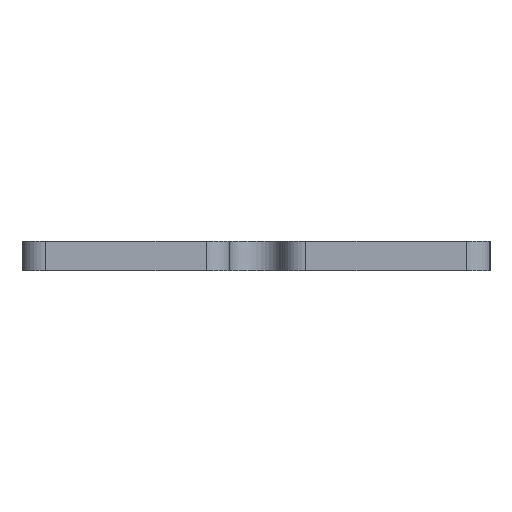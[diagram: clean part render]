
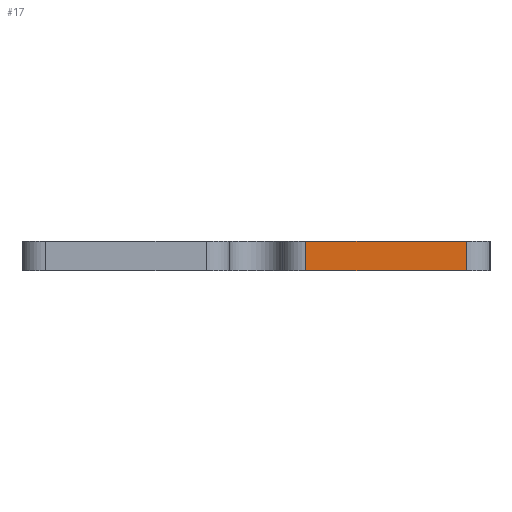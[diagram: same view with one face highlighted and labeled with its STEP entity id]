
A CAD part, left-side view. The second image highlights one B-rep face of the part: STEP entity #17.
In plain terms, the highlighted planar face has unit normal (-1, 0, 0).
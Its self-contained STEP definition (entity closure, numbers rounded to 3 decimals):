
#17 = ADVANCED_FACE('',(#18),#32,.T.);
#18 = FACE_BOUND('',#19,.T.);
#19 = EDGE_LOOP('',(#20,#55,#83,#111));
#20 = ORIENTED_EDGE('',*,*,#21,.F.);
#21 = EDGE_CURVE('',#22,#24,#26,.T.);
#22 = VERTEX_POINT('',#23);
#23 = CARTESIAN_POINT('',(-125.,2.,0.));
#24 = VERTEX_POINT('',#25);
#25 = CARTESIAN_POINT('',(-125.,15.75,0.));
#26 = SURFACE_CURVE('',#27,(#31,#43),.PCURVE_S1.);
#27 = LINE('',#28,#29);
#28 = CARTESIAN_POINT('',(-125.,2.,0.));
#29 = VECTOR('',#30,1.);
#30 = DIRECTION('',(0.,1.,0.));
#31 = PCURVE('',#32,#37);
#32 = PLANE('',#33);
#33 = AXIS2_PLACEMENT_3D('',#34,#35,#36);
#34 = CARTESIAN_POINT('',(-125.,2.,0.));
#35 = DIRECTION('',(-1.,0.,0.));
#36 = DIRECTION('',(0.,1.,0.));
#37 = DEFINITIONAL_REPRESENTATION('',(#38),#42);
#38 = LINE('',#39,#40);
#39 = CARTESIAN_POINT('',(0.,0.));
#40 = VECTOR('',#41,1.);
#41 = DIRECTION('',(1.,0.));
#42 = ( GEOMETRIC_REPRESENTATION_CONTEXT(2) 
PARAMETRIC_REPRESENTATION_CONTEXT() REPRESENTATION_CONTEXT('2D SPACE',''
  ) );
#43 = PCURVE('',#44,#49);
#44 = PLANE('',#45);
#45 = AXIS2_PLACEMENT_3D('',#46,#47,#48);
#46 = CARTESIAN_POINT('',(0.,20.,0.));
#47 = DIRECTION('',(0.,0.,1.));
#48 = DIRECTION('',(1.,0.,0.));
#49 = DEFINITIONAL_REPRESENTATION('',(#50),#54);
#50 = LINE('',#51,#52);
#51 = CARTESIAN_POINT('',(-125.,-18.));
#52 = VECTOR('',#53,1.);
#53 = DIRECTION('',(0.,1.));
#54 = ( GEOMETRIC_REPRESENTATION_CONTEXT(2) 
PARAMETRIC_REPRESENTATION_CONTEXT() REPRESENTATION_CONTEXT('2D SPACE',''
  ) );
#55 = ORIENTED_EDGE('',*,*,#56,.T.);
#56 = EDGE_CURVE('',#22,#57,#59,.T.);
#57 = VERTEX_POINT('',#58);
#58 = CARTESIAN_POINT('',(-125.,2.,2.5));
#59 = SURFACE_CURVE('',#60,(#64,#71),.PCURVE_S1.);
#60 = LINE('',#61,#62);
#61 = CARTESIAN_POINT('',(-125.,2.,0.));
#62 = VECTOR('',#63,1.);
#63 = DIRECTION('',(0.,0.,1.));
#64 = PCURVE('',#32,#65);
#65 = DEFINITIONAL_REPRESENTATION('',(#66),#70);
#66 = LINE('',#67,#68);
#67 = CARTESIAN_POINT('',(0.,0.));
#68 = VECTOR('',#69,1.);
#69 = DIRECTION('',(0.,-1.));
#70 = ( GEOMETRIC_REPRESENTATION_CONTEXT(2) 
PARAMETRIC_REPRESENTATION_CONTEXT() REPRESENTATION_CONTEXT('2D SPACE',''
  ) );
#71 = PCURVE('',#72,#77);
#72 = CYLINDRICAL_SURFACE('',#73,2.);
#73 = AXIS2_PLACEMENT_3D('',#74,#75,#76);
#74 = CARTESIAN_POINT('',(-123.,2.,0.));
#75 = DIRECTION('',(-0.,-0.,-1.));
#76 = DIRECTION('',(1.,0.,0.));
#77 = DEFINITIONAL_REPRESENTATION('',(#78),#82);
#78 = LINE('',#79,#80);
#79 = CARTESIAN_POINT('',(-3.142,0.));
#80 = VECTOR('',#81,1.);
#81 = DIRECTION('',(-0.,-1.));
#82 = ( GEOMETRIC_REPRESENTATION_CONTEXT(2) 
PARAMETRIC_REPRESENTATION_CONTEXT() REPRESENTATION_CONTEXT('2D SPACE',''
  ) );
#83 = ORIENTED_EDGE('',*,*,#84,.T.);
#84 = EDGE_CURVE('',#57,#85,#87,.T.);
#85 = VERTEX_POINT('',#86);
#86 = CARTESIAN_POINT('',(-125.,15.75,2.5));
#87 = SURFACE_CURVE('',#88,(#92,#99),.PCURVE_S1.);
#88 = LINE('',#89,#90);
#89 = CARTESIAN_POINT('',(-125.,2.,2.5));
#90 = VECTOR('',#91,1.);
#91 = DIRECTION('',(0.,1.,0.));
#92 = PCURVE('',#32,#93);
#93 = DEFINITIONAL_REPRESENTATION('',(#94),#98);
#94 = LINE('',#95,#96);
#95 = CARTESIAN_POINT('',(0.,-2.5));
#96 = VECTOR('',#97,1.);
#97 = DIRECTION('',(1.,0.));
#98 = ( GEOMETRIC_REPRESENTATION_CONTEXT(2) 
PARAMETRIC_REPRESENTATION_CONTEXT() REPRESENTATION_CONTEXT('2D SPACE',''
  ) );
#99 = PCURVE('',#100,#105);
#100 = PLANE('',#101);
#101 = AXIS2_PLACEMENT_3D('',#102,#103,#104);
#102 = CARTESIAN_POINT('',(0.,20.,2.5));
#103 = DIRECTION('',(0.,0.,1.));
#104 = DIRECTION('',(1.,0.,0.));
#105 = DEFINITIONAL_REPRESENTATION('',(#106),#110);
#106 = LINE('',#107,#108);
#107 = CARTESIAN_POINT('',(-125.,-18.));
#108 = VECTOR('',#109,1.);
#109 = DIRECTION('',(0.,1.));
#110 = ( GEOMETRIC_REPRESENTATION_CONTEXT(2) 
PARAMETRIC_REPRESENTATION_CONTEXT() REPRESENTATION_CONTEXT('2D SPACE',''
  ) );
#111 = ORIENTED_EDGE('',*,*,#112,.F.);
#112 = EDGE_CURVE('',#24,#85,#113,.T.);
#113 = SURFACE_CURVE('',#114,(#118,#125),.PCURVE_S1.);
#114 = LINE('',#115,#116);
#115 = CARTESIAN_POINT('',(-125.,15.75,0.));
#116 = VECTOR('',#117,1.);
#117 = DIRECTION('',(0.,0.,1.));
#118 = PCURVE('',#32,#119);
#119 = DEFINITIONAL_REPRESENTATION('',(#120),#124);
#120 = LINE('',#121,#122);
#121 = CARTESIAN_POINT('',(13.75,0.));
#122 = VECTOR('',#123,1.);
#123 = DIRECTION('',(0.,-1.));
#124 = ( GEOMETRIC_REPRESENTATION_CONTEXT(2) 
PARAMETRIC_REPRESENTATION_CONTEXT() REPRESENTATION_CONTEXT('2D SPACE',''
  ) );
#125 = PCURVE('',#126,#131);
#126 = CYLINDRICAL_SURFACE('',#127,2.);
#127 = AXIS2_PLACEMENT_3D('',#128,#129,#130);
#128 = CARTESIAN_POINT('',(-123.,15.75,0.));
#129 = DIRECTION('',(0.,0.,1.));
#130 = DIRECTION('',(-1.,0.,0.));
#131 = DEFINITIONAL_REPRESENTATION('',(#132),#136);
#132 = LINE('',#133,#134);
#133 = CARTESIAN_POINT('',(-0.,0.));
#134 = VECTOR('',#135,1.);
#135 = DIRECTION('',(-0.,1.));
#136 = ( GEOMETRIC_REPRESENTATION_CONTEXT(2) 
PARAMETRIC_REPRESENTATION_CONTEXT() REPRESENTATION_CONTEXT('2D SPACE',''
  ) );
